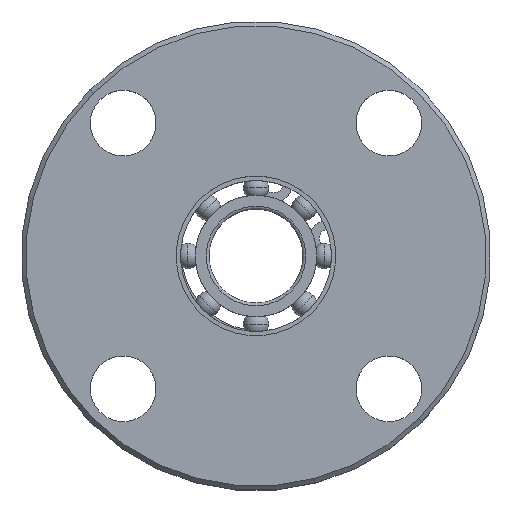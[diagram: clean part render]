
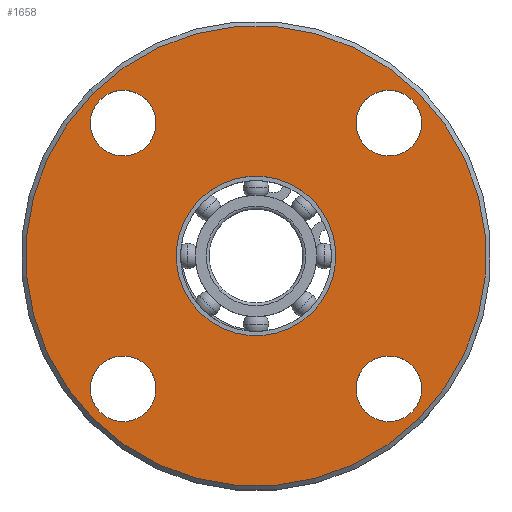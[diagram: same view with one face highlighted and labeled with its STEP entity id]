
A CAD part, top view. The second image highlights one B-rep face of the part: STEP entity #1658.
In plain terms, the highlighted planar face has unit normal (0, 0, 1).
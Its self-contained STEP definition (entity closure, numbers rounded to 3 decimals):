
#45 = EDGE_CURVE ( 'NONE', #1832, #2285, #126, .T. ) ;
#79 = CIRCLE ( 'NONE', #2507, 3.5 ) ;
#88 = VERTEX_POINT ( 'NONE', #2161 ) ;
#90 = CIRCLE ( 'NONE', #138, 8.5 ) ;
#94 = EDGE_CURVE ( 'NONE', #1886, #1288, #1356, .T. ) ;
#106 = ORIENTED_EDGE ( 'NONE', *, *, #45, .T. ) ;
#126 = CIRCLE ( 'NONE', #1566, 3.5 ) ;
#138 = AXIS2_PLACEMENT_3D ( 'NONE', #2204, #1943, #1710 ) ;
#171 = CARTESIAN_POINT ( 'NONE',  ( -14.142, 14.142, 201. ) ) ;
#292 = EDGE_CURVE ( 'NONE', #1872, #88, #79, .T. ) ;
#300 = AXIS2_PLACEMENT_3D ( 'NONE', #590, #2591, #2358 ) ;
#307 = FACE_BOUND ( 'NONE', #2823, .T. ) ;
#314 = ORIENTED_EDGE ( 'NONE', *, *, #2885, .T. ) ;
#328 = VERTEX_POINT ( 'NONE', #1561 ) ;
#347 = DIRECTION ( 'NONE',  ( -0.707, 0.707, 0. ) ) ;
#394 = DIRECTION ( 'NONE',  ( -0.707, 0.707, 0. ) ) ;
#445 = CIRCLE ( 'NONE', #2300, 3.5 ) ;
#487 = CARTESIAN_POINT ( 'NONE',  ( 14.142, -14.142, 201. ) ) ;
#557 = CARTESIAN_POINT ( 'NONE',  ( -6.01, 6.01, 201. ) ) ;
#565 = DIRECTION ( 'NONE',  ( 0., 0., -1. ) ) ;
#590 = CARTESIAN_POINT ( 'NONE',  ( 0., 0., 201. ) ) ;
#625 = CIRCLE ( 'NONE', #2840, 3.5 ) ;
#649 = DIRECTION ( 'NONE',  ( 0., 0., -1. ) ) ;
#655 = EDGE_CURVE ( 'NONE', #3003, #1868, #1144, .T. ) ;
#689 = CARTESIAN_POINT ( 'NONE',  ( -11.667, -11.667, 201. ) ) ;
#699 = DIRECTION ( 'NONE',  ( -0.707, -0.707, 0. ) ) ;
#740 = FACE_BOUND ( 'NONE', #1302, .T. ) ;
#747 = CARTESIAN_POINT ( 'NONE',  ( 11.667, 11.667, 201. ) ) ;
#755 = VERTEX_POINT ( 'NONE', #557 ) ;
#772 = AXIS2_PLACEMENT_3D ( 'NONE', #1004, #2017, #3021 ) ;
#801 = CARTESIAN_POINT ( 'NONE',  ( -14.142, 14.142, 201. ) ) ;
#859 = DIRECTION ( 'NONE',  ( 0.707, -0.707, 0. ) ) ;
#893 = EDGE_LOOP ( 'NONE', ( #1781, #1067 ) ) ;
#913 = CARTESIAN_POINT ( 'NONE',  ( -14.142, -14.142, 201. ) ) ;
#919 = EDGE_CURVE ( 'NONE', #2285, #1832, #3258, .T. ) ;
#1004 = CARTESIAN_POINT ( 'NONE',  ( 0., 0., 201. ) ) ;
#1007 = EDGE_CURVE ( 'NONE', #88, #1872, #1525, .T. ) ;
#1021 = DIRECTION ( 'NONE',  ( 0.707, -0.707, 0. ) ) ;
#1056 = FACE_BOUND ( 'NONE', #2191, .T. ) ;
#1067 = ORIENTED_EDGE ( 'NONE', *, *, #2481, .T. ) ;
#1090 = ORIENTED_EDGE ( 'NONE', *, *, #919, .T. ) ;
#1144 = CIRCLE ( 'NONE', #2991, 3.5 ) ;
#1160 = VERTEX_POINT ( 'NONE', #747 ) ;
#1203 = CARTESIAN_POINT ( 'NONE',  ( 11.667, -11.667, 201. ) ) ;
#1223 = CARTESIAN_POINT ( 'NONE',  ( 17.324, -17.324, 201. ) ) ;
#1225 = ORIENTED_EDGE ( 'NONE', *, *, #2002, .T. ) ;
#1232 = DIRECTION ( 'NONE',  ( 0., 0., -1. ) ) ;
#1272 = DIRECTION ( 'NONE',  ( 0., 0., -1. ) ) ;
#1280 = ORIENTED_EDGE ( 'NONE', *, *, #1007, .T. ) ;
#1288 = VERTEX_POINT ( 'NONE', #1809 ) ;
#1302 = EDGE_LOOP ( 'NONE', ( #1473, #1547 ) ) ;
#1328 = FACE_BOUND ( 'NONE', #2117, .T. ) ;
#1339 = CARTESIAN_POINT ( 'NONE',  ( 16.617, -16.617, 201. ) ) ;
#1356 = CIRCLE ( 'NONE', #1774, 24.5 ) ;
#1473 = ORIENTED_EDGE ( 'NONE', *, *, #655, .T. ) ;
#1525 = CIRCLE ( 'NONE', #2413, 3.5 ) ;
#1547 = ORIENTED_EDGE ( 'NONE', *, *, #1697, .T. ) ;
#1561 = CARTESIAN_POINT ( 'NONE',  ( 16.617, 16.617, 201. ) ) ;
#1566 = AXIS2_PLACEMENT_3D ( 'NONE', #913, #649, #2422 ) ;
#1651 = CARTESIAN_POINT ( 'NONE',  ( -16.617, -16.617, 201. ) ) ;
#1658 = ADVANCED_FACE ( 'NONE', ( #1056, #307, #1328, #740, #1751, #2265 ), #3273, .T. ) ;
#1697 = EDGE_CURVE ( 'NONE', #1868, #3003, #2463, .T. ) ;
#1710 = DIRECTION ( 'NONE',  ( 0.707, -0.707, 0. ) ) ;
#1727 = CARTESIAN_POINT ( 'NONE',  ( 0., 0., 201. ) ) ;
#1734 = VERTEX_POINT ( 'NONE', #1834 ) ;
#1751 = FACE_BOUND ( 'NONE', #893, .T. ) ;
#1761 = DIRECTION ( 'NONE',  ( 0., 0., -1. ) ) ;
#1762 = DIRECTION ( 'NONE',  ( -0.707, 0.707, 0. ) ) ;
#1774 = AXIS2_PLACEMENT_3D ( 'NONE', #1989, #2502, #1762 ) ;
#1781 = ORIENTED_EDGE ( 'NONE', *, *, #2294, .T. ) ;
#1809 = CARTESIAN_POINT ( 'NONE',  ( -17.324, 17.324, 201. ) ) ;
#1832 = VERTEX_POINT ( 'NONE', #689 ) ;
#1834 = CARTESIAN_POINT ( 'NONE',  ( 6.01, -6.01, 201. ) ) ;
#1868 = VERTEX_POINT ( 'NONE', #1203 ) ;
#1872 = VERTEX_POINT ( 'NONE', #2667 ) ;
#1886 = VERTEX_POINT ( 'NONE', #1223 ) ;
#1943 = DIRECTION ( 'NONE',  ( 0., 0., -1. ) ) ;
#1947 = CIRCLE ( 'NONE', #300, 24.5 ) ;
#1960 = CARTESIAN_POINT ( 'NONE',  ( -14.142, -14.142, 201. ) ) ;
#1981 = DIRECTION ( 'NONE',  ( 0.707, 0.707, 0. ) ) ;
#1989 = CARTESIAN_POINT ( 'NONE',  ( 0., 0., 201. ) ) ;
#2002 = EDGE_CURVE ( 'NONE', #328, #1160, #445, .T. ) ;
#2017 = DIRECTION ( 'NONE',  ( 0., 0., 1. ) ) ;
#2043 = CARTESIAN_POINT ( 'NONE',  ( 14.142, 14.142, 201. ) ) ;
#2115 = AXIS2_PLACEMENT_3D ( 'NONE', #1727, #1232, #2234 ) ;
#2117 = EDGE_LOOP ( 'NONE', ( #1225, #314 ) ) ;
#2161 = CARTESIAN_POINT ( 'NONE',  ( -11.667, 11.667, 201. ) ) ;
#2191 = EDGE_LOOP ( 'NONE', ( #2648, #1280 ) ) ;
#2204 = CARTESIAN_POINT ( 'NONE',  ( 0., 0., 201. ) ) ;
#2216 = DIRECTION ( 'NONE',  ( 0., 0., -1. ) ) ;
#2231 = CARTESIAN_POINT ( 'NONE',  ( 14.142, 14.142, 201. ) ) ;
#2234 = DIRECTION ( 'NONE',  ( 0.707, -0.707, 0. ) ) ;
#2256 = AXIS2_PLACEMENT_3D ( 'NONE', #1960, #1761, #699 ) ;
#2265 = FACE_OUTER_BOUND ( 'NONE', #2841, .T. ) ;
#2285 = VERTEX_POINT ( 'NONE', #1651 ) ;
#2294 = EDGE_CURVE ( 'NONE', #1734, #755, #90, .T. ) ;
#2300 = AXIS2_PLACEMENT_3D ( 'NONE', #2043, #1272, #3056 ) ;
#2358 = DIRECTION ( 'NONE',  ( -0.707, 0.707, 0. ) ) ;
#2413 = AXIS2_PLACEMENT_3D ( 'NONE', #171, #3180, #394 ) ;
#2416 = ORIENTED_EDGE ( 'NONE', *, *, #94, .F. ) ;
#2422 = DIRECTION ( 'NONE',  ( -0.707, -0.707, 0. ) ) ;
#2463 = CIRCLE ( 'NONE', #3105, 3.5 ) ;
#2481 = EDGE_CURVE ( 'NONE', #755, #1734, #3267, .T. ) ;
#2502 = DIRECTION ( 'NONE',  ( 0., 0., -1. ) ) ;
#2507 = AXIS2_PLACEMENT_3D ( 'NONE', #801, #565, #347 ) ;
#2591 = DIRECTION ( 'NONE',  ( 0., 0., -1. ) ) ;
#2608 = CARTESIAN_POINT ( 'NONE',  ( 14.142, -14.142, 201. ) ) ;
#2648 = ORIENTED_EDGE ( 'NONE', *, *, #292, .T. ) ;
#2654 = ORIENTED_EDGE ( 'NONE', *, *, #2967, .F. ) ;
#2667 = CARTESIAN_POINT ( 'NONE',  ( -16.617, 16.617, 201. ) ) ;
#2823 = EDGE_LOOP ( 'NONE', ( #1090, #106 ) ) ;
#2840 = AXIS2_PLACEMENT_3D ( 'NONE', #2231, #2216, #1981 ) ;
#2841 = EDGE_LOOP ( 'NONE', ( #2654, #2416 ) ) ;
#2885 = EDGE_CURVE ( 'NONE', #1160, #328, #625, .T. ) ;
#2967 = EDGE_CURVE ( 'NONE', #1288, #1886, #1947, .T. ) ;
#2991 = AXIS2_PLACEMENT_3D ( 'NONE', #487, #3081, #1021 ) ;
#3003 = VERTEX_POINT ( 'NONE', #1339 ) ;
#3021 = DIRECTION ( 'NONE',  ( 0.707, 0.707, 0. ) ) ;
#3056 = DIRECTION ( 'NONE',  ( 0.707, 0.707, 0. ) ) ;
#3081 = DIRECTION ( 'NONE',  ( 0., 0., -1. ) ) ;
#3105 = AXIS2_PLACEMENT_3D ( 'NONE', #2608, #3141, #859 ) ;
#3141 = DIRECTION ( 'NONE',  ( 0., 0., -1. ) ) ;
#3180 = DIRECTION ( 'NONE',  ( 0., 0., -1. ) ) ;
#3258 = CIRCLE ( 'NONE', #2256, 3.5 ) ;
#3267 = CIRCLE ( 'NONE', #2115, 8.5 ) ;
#3273 = PLANE ( 'NONE',  #772 ) ;
